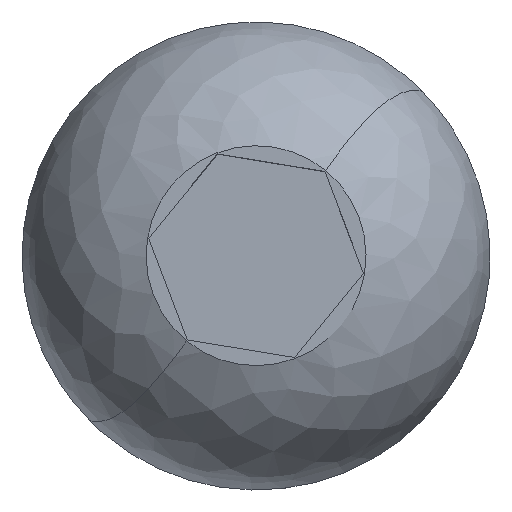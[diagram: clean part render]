
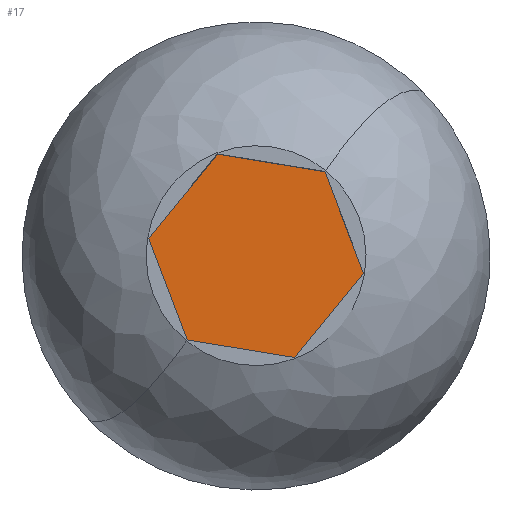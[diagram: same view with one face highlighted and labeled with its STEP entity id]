
A CAD part, top view. The second image highlights one B-rep face of the part: STEP entity #17.
In plain terms, the highlighted planar face has unit normal (0, 0, 1).
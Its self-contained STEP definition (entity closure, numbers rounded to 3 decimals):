
#17 = ADVANCED_FACE ( 'NONE', ( #4475 ), #3780, .T. ) ;
#98 = ORIENTED_EDGE ( 'NONE', *, *, #2400, .T. ) ;
#232 = CARTESIAN_POINT ( 'NONE',  ( -1.226, 3.24, 1. ) ) ;
#325 = VERTEX_POINT ( 'NONE', #3246 ) ;
#392 = DIRECTION ( 'NONE',  ( -0.987, 0.161, 0. ) ) ;
#505 = VERTEX_POINT ( 'NONE', #1857 ) ;
#589 = VERTEX_POINT ( 'NONE', #1078 ) ;
#748 = EDGE_CURVE ( 'NONE', #589, #982, #4132, .T. ) ;
#761 = EDGE_CURVE ( 'NONE', #4416, #325, #2737, .T. ) ;
#827 = VECTOR ( 'NONE', #880, 1000. ) ;
#843 = CARTESIAN_POINT ( 'NONE',  ( 2.193, 2.682, 1. ) ) ;
#850 = LINE ( 'NONE', #4446, #2747 ) ;
#880 = DIRECTION ( 'NONE',  ( -0.633, -0.774, 0. ) ) ;
#882 = DIRECTION ( 'NONE',  ( 0.987, -0.161, 0. ) ) ;
#982 = VERTEX_POINT ( 'NONE', #3376 ) ;
#1047 = VECTOR ( 'NONE', #882, 1000. ) ;
#1078 = CARTESIAN_POINT ( 'NONE',  ( 3.419, -0.558, 1. ) ) ;
#1118 = VECTOR ( 'NONE', #1817, 1000. ) ;
#1130 = EDGE_CURVE ( 'NONE', #505, #589, #850, .T. ) ;
#1302 = LINE ( 'NONE', #843, #1672 ) ;
#1339 = CARTESIAN_POINT ( 'NONE',  ( -1.226, 3.24, 1. ) ) ;
#1340 = CARTESIAN_POINT ( 'NONE',  ( -2.193, -2.682, 1. ) ) ;
#1640 = AXIS2_PLACEMENT_3D ( 'NONE', #3304, #2847, #2383 ) ;
#1672 = VECTOR ( 'NONE', #392, 1000. ) ;
#1750 = ORIENTED_EDGE ( 'NONE', *, *, #761, .T. ) ;
#1808 = LINE ( 'NONE', #1339, #827 ) ;
#1809 = LINE ( 'NONE', #1340, #1047 ) ;
#1817 = DIRECTION ( 'NONE',  ( 0.354, -0.935, 0. ) ) ;
#1857 = CARTESIAN_POINT ( 'NONE',  ( 1.226, -3.24, 1. ) ) ;
#1982 = EDGE_CURVE ( 'NONE', #2180, #4416, #1808, .T. ) ;
#2180 = VERTEX_POINT ( 'NONE', #232 ) ;
#2276 = CARTESIAN_POINT ( 'NONE',  ( -3.419, 0.558, 1. ) ) ;
#2282 = ORIENTED_EDGE ( 'NONE', *, *, #3891, .T. ) ;
#2383 = DIRECTION ( 'NONE',  ( 1., 0., 0. ) ) ;
#2400 = EDGE_CURVE ( 'NONE', #982, #2180, #1302, .T. ) ;
#2437 = EDGE_LOOP ( 'NONE', ( #3556, #3366, #98, #4346, #1750, #2282 ) ) ;
#2737 = LINE ( 'NONE', #2276, #1118 ) ;
#2747 = VECTOR ( 'NONE', #3989, 1000. ) ;
#2847 = DIRECTION ( 'NONE',  ( 0., 0., 1. ) ) ;
#3199 = DIRECTION ( 'NONE',  ( -0.354, 0.935, 0. ) ) ;
#3246 = CARTESIAN_POINT ( 'NONE',  ( -2.193, -2.682, 1. ) ) ;
#3304 = CARTESIAN_POINT ( 'NONE',  ( 0., 0., 1. ) ) ;
#3366 = ORIENTED_EDGE ( 'NONE', *, *, #748, .T. ) ;
#3376 = CARTESIAN_POINT ( 'NONE',  ( 2.193, 2.682, 1. ) ) ;
#3556 = ORIENTED_EDGE ( 'NONE', *, *, #1130, .T. ) ;
#3585 = CARTESIAN_POINT ( 'NONE',  ( -3.419, 0.558, 1. ) ) ;
#3659 = VECTOR ( 'NONE', #3199, 1000. ) ;
#3671 = CARTESIAN_POINT ( 'NONE',  ( 3.419, -0.558, 1. ) ) ;
#3780 = PLANE ( 'NONE',  #1640 ) ;
#3891 = EDGE_CURVE ( 'NONE', #325, #505, #1809, .T. ) ;
#3989 = DIRECTION ( 'NONE',  ( 0.633, 0.774, 0. ) ) ;
#4132 = LINE ( 'NONE', #3671, #3659 ) ;
#4346 = ORIENTED_EDGE ( 'NONE', *, *, #1982, .T. ) ;
#4416 = VERTEX_POINT ( 'NONE', #3585 ) ;
#4446 = CARTESIAN_POINT ( 'NONE',  ( 1.226, -3.24, 1. ) ) ;
#4475 = FACE_OUTER_BOUND ( 'NONE', #2437, .T. ) ;
